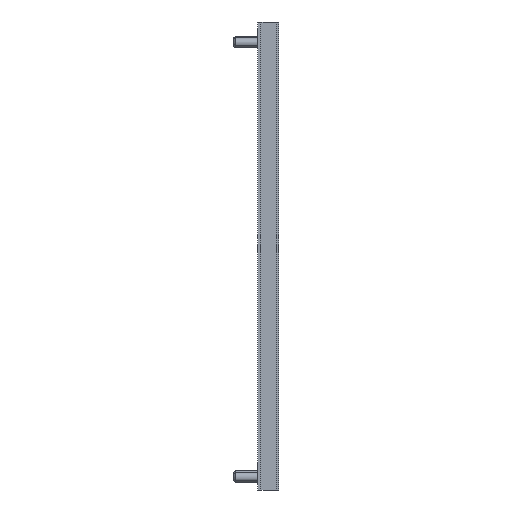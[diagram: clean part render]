
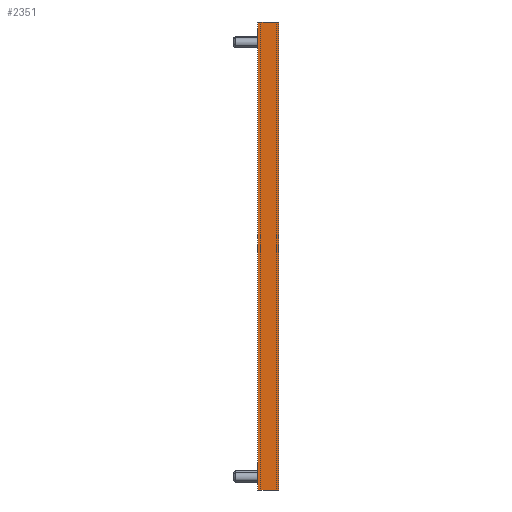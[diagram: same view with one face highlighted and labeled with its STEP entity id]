
A CAD part, left-side view. The second image highlights one B-rep face of the part: STEP entity #2351.
In plain terms, the highlighted planar face has unit normal (-1, 0, 0).
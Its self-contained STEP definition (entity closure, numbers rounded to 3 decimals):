
#35 = CARTESIAN_POINT ( 'NONE',  ( -8., 0., 279. ) ) ;
#458 = PLANE ( 'NONE',  #4353 ) ;
#459 = LINE ( 'NONE', #3939, #809 ) ;
#591 = DIRECTION ( 'NONE',  ( 0., 1., 0. ) ) ;
#600 = DIRECTION ( 'NONE',  ( 0., 0., 1. ) ) ;
#756 = VERTEX_POINT ( 'NONE', #4122 ) ;
#800 = VECTOR ( 'NONE', #600, 1000. ) ;
#809 = VECTOR ( 'NONE', #591, 1000. ) ;
#830 = CARTESIAN_POINT ( 'NONE',  ( -8., 0., 0. ) ) ;
#912 = EDGE_CURVE ( 'NONE', #4483, #1946, #3325, .T. ) ;
#995 = VERTEX_POINT ( 'NONE', #2309 ) ;
#1185 = CARTESIAN_POINT ( 'NONE',  ( -8., 0., 0. ) ) ;
#1265 = ORIENTED_EDGE ( 'NONE', *, *, #4008, .T. ) ;
#1316 = CARTESIAN_POINT ( 'NONE',  ( -8., 12.5, 279. ) ) ;
#1425 = DIRECTION ( 'NONE',  ( 0., 1., 0. ) ) ;
#1518 = ORIENTED_EDGE ( 'NONE', *, *, #3172, .T. ) ;
#1580 = LINE ( 'NONE', #2361, #3558 ) ;
#1581 = CARTESIAN_POINT ( 'NONE',  ( -8., 9.3, 279. ) ) ;
#1631 = CARTESIAN_POINT ( 'NONE',  ( -8., 12.5, 279. ) ) ;
#1687 = ORIENTED_EDGE ( 'NONE', *, *, #2142, .T. ) ;
#1762 = VERTEX_POINT ( 'NONE', #3705 ) ;
#1832 = CARTESIAN_POINT ( 'NONE',  ( -8., 0., 279. ) ) ;
#1935 = VERTEX_POINT ( 'NONE', #3728 ) ;
#1946 = VERTEX_POINT ( 'NONE', #2022 ) ;
#1963 = LINE ( 'NONE', #1185, #2419 ) ;
#2022 = CARTESIAN_POINT ( 'NONE',  ( -8., 0., 279. ) ) ;
#2081 = EDGE_LOOP ( 'NONE', ( #2593, #4103, #3190, #1687, #3296, #1518, #1265, #4487 ) ) ;
#2142 = EDGE_CURVE ( 'NONE', #756, #4483, #1580, .T. ) ;
#2195 = DIRECTION ( 'NONE',  ( 0., 0., 1. ) ) ;
#2309 = CARTESIAN_POINT ( 'NONE',  ( -8., 3.2, 279. ) ) ;
#2351 = ADVANCED_FACE ( 'NONE', ( #2924 ), #458, .T. ) ;
#2361 = CARTESIAN_POINT ( 'NONE',  ( -8., 0., 0. ) ) ;
#2419 = VECTOR ( 'NONE', #3347, 1000. ) ;
#2530 = DIRECTION ( 'NONE',  ( 0., -1., 0. ) ) ;
#2578 = DIRECTION ( 'NONE',  ( -1., 0., 0. ) ) ;
#2593 = ORIENTED_EDGE ( 'NONE', *, *, #3581, .F. ) ;
#2711 = DIRECTION ( 'NONE',  ( 0., -1., 0. ) ) ;
#2877 = LINE ( 'NONE', #3369, #3002 ) ;
#2924 = FACE_OUTER_BOUND ( 'NONE', #2081, .T. ) ;
#2929 = EDGE_CURVE ( 'NONE', #4208, #3668, #4172, .T. ) ;
#3002 = VECTOR ( 'NONE', #2530, 1000. ) ;
#3018 = DIRECTION ( 'NONE',  ( 0., -1., 0. ) ) ;
#3156 = LINE ( 'NONE', #35, #4124 ) ;
#3172 = EDGE_CURVE ( 'NONE', #1946, #995, #3156, .T. ) ;
#3190 = ORIENTED_EDGE ( 'NONE', *, *, #4054, .T. ) ;
#3284 = LINE ( 'NONE', #1631, #3981 ) ;
#3296 = ORIENTED_EDGE ( 'NONE', *, *, #912, .T. ) ;
#3325 = LINE ( 'NONE', #3377, #800 ) ;
#3347 = DIRECTION ( 'NONE',  ( 0., -1., 0. ) ) ;
#3369 = CARTESIAN_POINT ( 'NONE',  ( -8., 0., 0. ) ) ;
#3377 = CARTESIAN_POINT ( 'NONE',  ( -8., 0., 279. ) ) ;
#3558 = VECTOR ( 'NONE', #3018, 1000. ) ;
#3581 = EDGE_CURVE ( 'NONE', #1762, #4208, #3284, .T. ) ;
#3668 = VERTEX_POINT ( 'NONE', #1581 ) ;
#3705 = CARTESIAN_POINT ( 'NONE',  ( -8., 12.5, 0. ) ) ;
#3728 = CARTESIAN_POINT ( 'NONE',  ( -8., 9.3, 0. ) ) ;
#3939 = CARTESIAN_POINT ( 'NONE',  ( -8., 0., 279. ) ) ;
#3981 = VECTOR ( 'NONE', #4406, 1000. ) ;
#4008 = EDGE_CURVE ( 'NONE', #995, #3668, #459, .T. ) ;
#4054 = EDGE_CURVE ( 'NONE', #1935, #756, #2877, .T. ) ;
#4103 = ORIENTED_EDGE ( 'NONE', *, *, #4106, .T. ) ;
#4106 = EDGE_CURVE ( 'NONE', #1762, #1935, #1963, .T. ) ;
#4122 = CARTESIAN_POINT ( 'NONE',  ( -8., 3.2, 0. ) ) ;
#4124 = VECTOR ( 'NONE', #1425, 1000. ) ;
#4172 = LINE ( 'NONE', #1316, #4420 ) ;
#4208 = VERTEX_POINT ( 'NONE', #4426 ) ;
#4353 = AXIS2_PLACEMENT_3D ( 'NONE', #1832, #2578, #2195 ) ;
#4406 = DIRECTION ( 'NONE',  ( 0., 0., 1. ) ) ;
#4420 = VECTOR ( 'NONE', #2711, 1000. ) ;
#4426 = CARTESIAN_POINT ( 'NONE',  ( -8., 12.5, 279. ) ) ;
#4483 = VERTEX_POINT ( 'NONE', #830 ) ;
#4487 = ORIENTED_EDGE ( 'NONE', *, *, #2929, .F. ) ;
